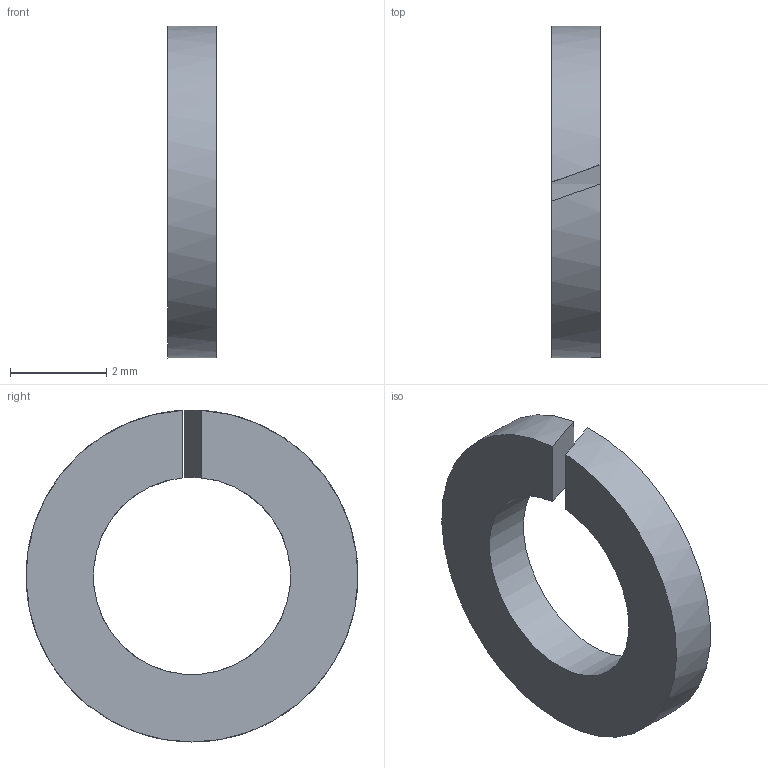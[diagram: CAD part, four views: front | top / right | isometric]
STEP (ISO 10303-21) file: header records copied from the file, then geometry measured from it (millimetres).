
FILE_DESCRIPTION(/* description */ ('스프링 잠금 와셔'),/* implementation_level */ '2;1');
FILE_NAME(/* name */ '',/* time_stamp */ '2026-07-30T15:25:33+09:00',/* author */ ('jhkim'),/* organization */ (''),/* preprocessor_version */ 'ST-DEVELOPER v20.1',/* originating_system */ 'Autodesk Inventor 2027',/* authorisation */ '');
FILE_SCHEMA (('AUTOMOTIVE_DESIGN { 1 0 10303 214 3 1 1 }'));
Length unit declared in the file: millimetre
Products named in the file (1): 스프링 와셔 M4
Bounding box: 1 x 6.9 x 6.9 mm (x, y, z)
Volume: 23.6 mm3; surface area: 84 mm2
Topology: 1 solids, 1 shells, 6 faces, 12 edges, 8 vertices
Faces by surface type: plane 4, cylinder 2
Entity records: 207 total; most frequent: DIRECTION 34, CARTESIAN_POINT 27, ORIENTED_EDGE 24, AXIS2_PLACEMENT_3D 15, EDGE_CURVE 12, VERTEX_POINT 8, FACE_OUTER_BOUND 6, EDGE_LOOP 6
